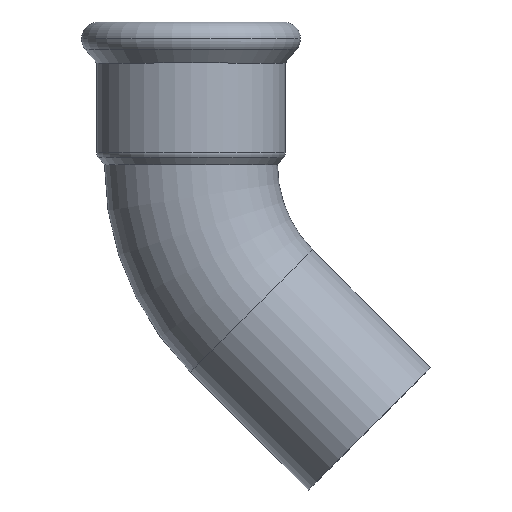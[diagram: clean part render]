
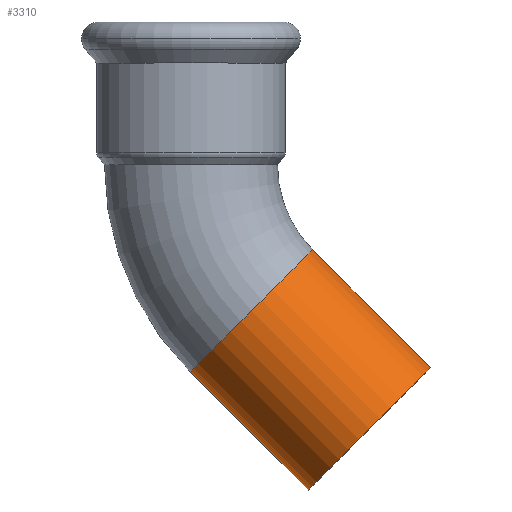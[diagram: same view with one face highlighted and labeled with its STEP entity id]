
A CAD part, top view. The second image highlights one B-rep face of the part: STEP entity #3310.
In plain terms, the highlighted cylindrical face has radius 17.594 mm (diameter 35.189 mm), a partial arc.
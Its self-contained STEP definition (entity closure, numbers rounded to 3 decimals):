
#2900=CARTESIAN_POINT('',(-276.21,163.821,0.));
#2910=DIRECTION('',(-0.707,0.707,0.));
#2920=DIRECTION('',(0.707,0.707,0.));
#2930=AXIS2_PLACEMENT_3D('',#2900,#2910,#2920);
#2940=CYLINDRICAL_SURFACE('',#2930,17.594);
#2950=CARTESIAN_POINT('',(-288.651,151.38,
0.));
#2960=DIRECTION('',(-0.707,0.707,0.));
#2970=VECTOR('',#2960,1.);
#2980=LINE('',#2950,#2970);
#2990=CARTESIAN_POINT('',(-264.678,127.406,
0.));
#3000=VERTEX_POINT('',#2990);
#3010=CARTESIAN_POINT('',(-288.651,151.38,
0.));
#3020=VERTEX_POINT('',#3010);
#3030=EDGE_CURVE('',#3000,#3020,#2980,.T.);
#3040=ORIENTED_EDGE('',*,*,#3030,.F.);
#3050=CARTESIAN_POINT('',(-276.21,163.821,0.));
#3060=DIRECTION('',(0.707,-0.707,0.));
#3070=DIRECTION('',(0.707,0.707,0.));
#3080=AXIS2_PLACEMENT_3D('',#3050,#3060,#3070);
#3090=CIRCLE('',#3080,17.594);
#3100=CARTESIAN_POINT('',(-263.769,176.262,0.));
#3110=VERTEX_POINT('',#3100);
#3120=EDGE_CURVE('',#3110,#3020,#3090,.T.);
#3130=ORIENTED_EDGE('',*,*,#3120,.T.);
#3140=CARTESIAN_POINT('',(-263.769,176.262,0.));
#3150=DIRECTION('',(-0.707,0.707,0.));
#3160=VECTOR('',#3150,1.);
#3170=LINE('',#3140,#3160);
#3180=CARTESIAN_POINT('',(-239.796,152.289,0.));
#3190=VERTEX_POINT('',#3180);
#3200=EDGE_CURVE('',#3190,#3110,#3170,.T.);
#3210=ORIENTED_EDGE('',*,*,#3200,.T.);
#3220=CARTESIAN_POINT('',(-252.237,139.847,0.));
#3230=DIRECTION('',(-0.707,0.707,0.));
#3240=DIRECTION('',(0.707,0.707,0.));
#3250=AXIS2_PLACEMENT_3D('',#3220,#3230,#3240);
#3260=CIRCLE('',#3250,17.594);
#3270=EDGE_CURVE('',#3000,#3190,#3260,.T.);
#3280=ORIENTED_EDGE('',*,*,#3270,.T.);
#3290=EDGE_LOOP('',(#3280,#3210,#3130,#3040));
#3300=FACE_OUTER_BOUND('',#3290,.T.);
#3310=ADVANCED_FACE('',(#3300),#2940,.T.);
